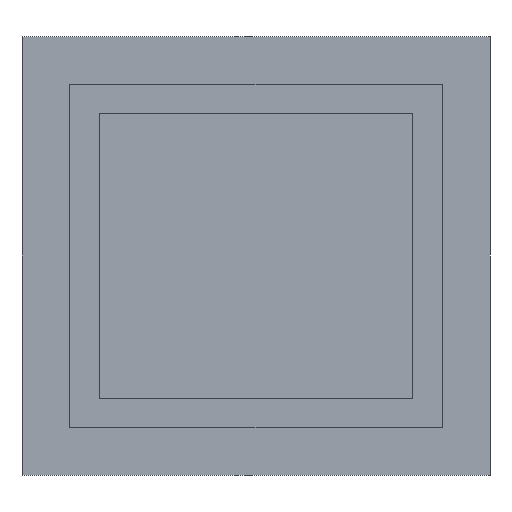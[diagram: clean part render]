
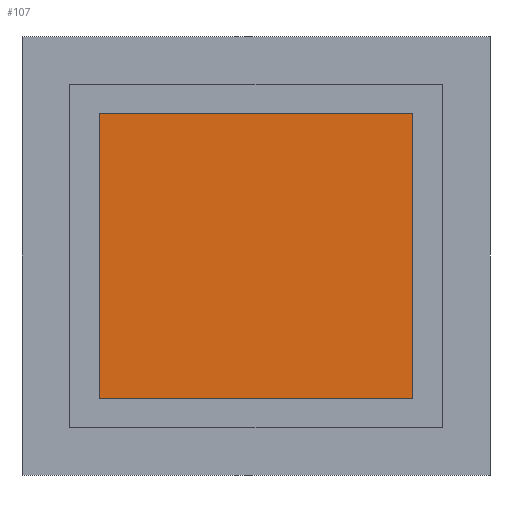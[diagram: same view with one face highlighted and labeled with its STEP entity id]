
A CAD part, left-side view. The second image highlights one B-rep face of the part: STEP entity #107.
In plain terms, the highlighted planar face has unit normal (-1, 0, 0).
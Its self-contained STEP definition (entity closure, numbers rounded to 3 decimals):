
#68=CARTESIAN_POINT('',(-1.032,-16.,15.));
#69=DIRECTION('',(-1.0,0.0,0.0));
#70=DIRECTION('',(0.0,0.0,1.0));
#71=AXIS2_PLACEMENT_3D('',#68,#69,#70);
#72=PLANE('',#71);
#73=CARTESIAN_POINT('',(-1.032,-5.282,5.282));
#74=VERTEX_POINT('',#73);
#75=CARTESIAN_POINT('',(-1.032,-5.282,24.718));
#76=VERTEX_POINT('',#75);
#77=CARTESIAN_POINT('',(-1.032,-5.282,5.282));
#78=DIRECTION('',(0.0,0.0,1.0));
#79=VECTOR('',#78,19.436);
#80=LINE('',#77,#79);
#81=EDGE_CURVE('',#74,#76,#80,.T.);
#82=ORIENTED_EDGE('',*,*,#81,.F.);
#83=CARTESIAN_POINT('',(-1.032,-26.718,5.282));
#84=VERTEX_POINT('',#83);
#85=CARTESIAN_POINT('',(-1.032,-26.718,5.282));
#86=DIRECTION('',(0.0,1.0,0.0));
#87=VECTOR('',#86,21.436);
#88=LINE('',#85,#87);
#89=EDGE_CURVE('',#84,#74,#88,.T.);
#90=ORIENTED_EDGE('',*,*,#89,.F.);
#91=CARTESIAN_POINT('',(-1.032,-26.718,24.718));
#92=VERTEX_POINT('',#91);
#93=CARTESIAN_POINT('',(-1.032,-26.718,24.718));
#94=DIRECTION('',(0.0,0.0,-1.0));
#95=VECTOR('',#94,19.436);
#96=LINE('',#93,#95);
#97=EDGE_CURVE('',#92,#84,#96,.T.);
#98=ORIENTED_EDGE('',*,*,#97,.F.);
#99=CARTESIAN_POINT('',(-1.032,-5.282,24.718));
#100=DIRECTION('',(0.0,-1.0,0.0));
#101=VECTOR('',#100,21.436);
#102=LINE('',#99,#101);
#103=EDGE_CURVE('',#76,#92,#102,.T.);
#104=ORIENTED_EDGE('',*,*,#103,.F.);
#105=EDGE_LOOP('',(#82,#90,#98,#104));
#106=FACE_OUTER_BOUND('',#105,.T.);
#107=ADVANCED_FACE('',(#106),#72,.T.);
